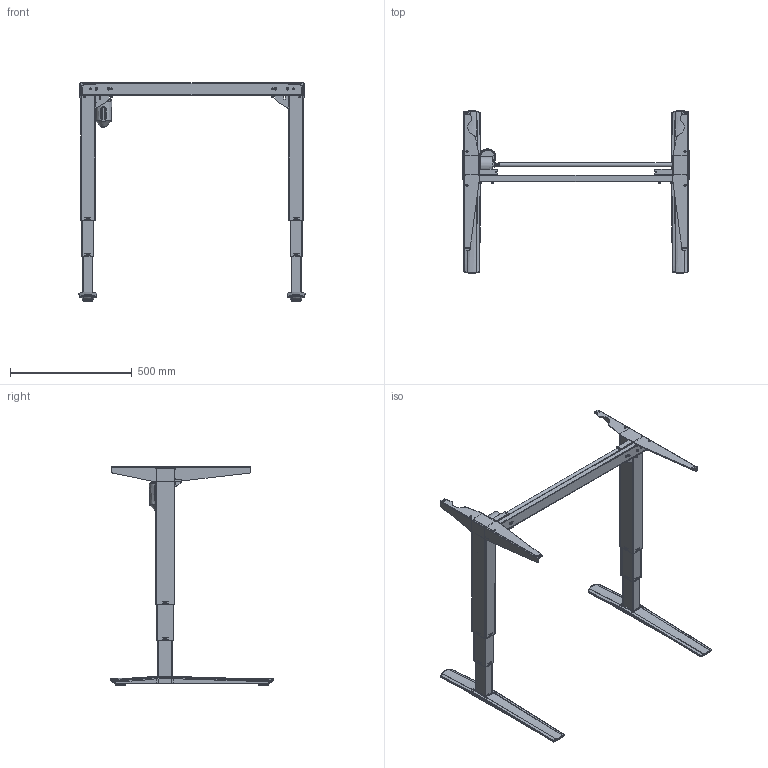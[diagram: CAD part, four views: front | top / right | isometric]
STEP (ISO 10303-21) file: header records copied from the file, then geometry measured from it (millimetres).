
FILE_DESCRIPTION (( 'STEP AP203' ), '1' );
FILE_NAME ('Tech-draw_501-43_XX092.STEP', '2019-09-25T11:14:31', ( '' ), ( '' ), 'SwSTEP 2.0', 'SolidWorks 2018', '' );
FILE_SCHEMA (( 'CONFIG_CONTROL_DESIGN' ));
Length unit declared in the file: millimetre
Products named in the file (34): 341800_silver; 332570; 141090_silver; 340510_shell view; 134470_silver1; 344550; 324520_silver; 340440; Tech-draw_501-43_XX092; 345200; 141080_silver; 340450_shell view; 144260_92; 341220; 134530_silver1; 347910_92; 347920_92; 141110_silver1; 344430_silver; 340760; 134500_silver1; 340520_shell view; 352610; 148880_501-43 XS092; 141070_silver; 340560; 340540_shell view; 340970; 141100_silver1; 340460_shell view; 348720_shell view; 345190_shell view; 141060_silver; 344560
Assembly tree (61 placements, depth 6):
  Tech-draw_501-43_XX092
    148880_501-43 XS092
      347910_92
      144260_92
        347920_92
        340560
        341220
      141070_silver
        134500_silver1
          340440
          340520_shell view
          348720_shell view
          344550
        141090_silver
          141110_silver1
            340460_shell view
            345190_shell view
            345200
          134530_silver1
            340450_shell view
          341800_silver  x4
        341800_silver  x4
        344430_silver
        324520_silver  x2
        352610
      141060_silver
        134470_silver1
          340970
          340510_shell view
          340540_shell view
          344560
        141080_silver
          141100_silver1
            340460_shell view
            345190_shell view
            345200
          134530_silver1
            340450_shell view
          341800_silver  x4
        341800_silver  x4
        324520_silver  x2
      340760  x4
      332570  x4
Bounding box: 927 x 668.35 x 895.2 mm (x, y, z)
Volume: 2514853.5 mm3; surface area: 2687579.3 mm2
Topology: 50 solids, 50 shells, 3310 faces, 8617 edges, 5464 vertices
Faces by surface type: plane 1775, cylinder 953, bspline 454, cone 77, torus 51
Full cylindrical faces by diameter (mm): 2.8 x4, 3 x2, 4.6 x4, 5 x4, 6 x10, 7 x8, 7.4 x4, 7.6 x4, 8 x13, 8.05 x4, 10 x8, 11.9 x2, 12 x1, 13 x2, 15 x4, 16 x2, 18 x1, 20 x1, 37.6 x8, 60 x1
Entity records: 99427 total; most frequent: CARTESIAN_POINT 52308, ORIENTED_EDGE 9418, DIRECTION 8197, EDGE_CURVE 4709, VERTEX_POINT 3067, AXIS2_PLACEMENT_3D 2964, LINE 2269, VECTOR 2269
